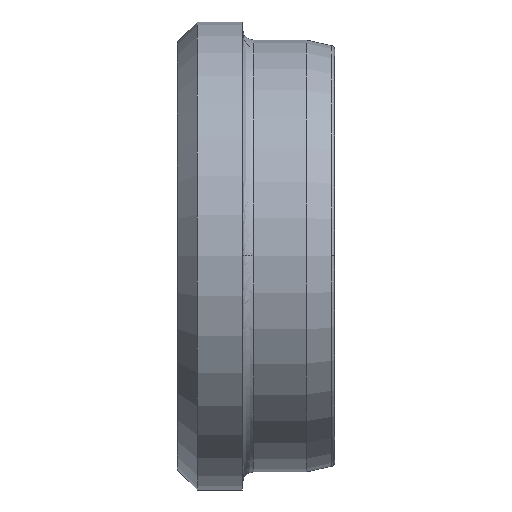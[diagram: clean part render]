
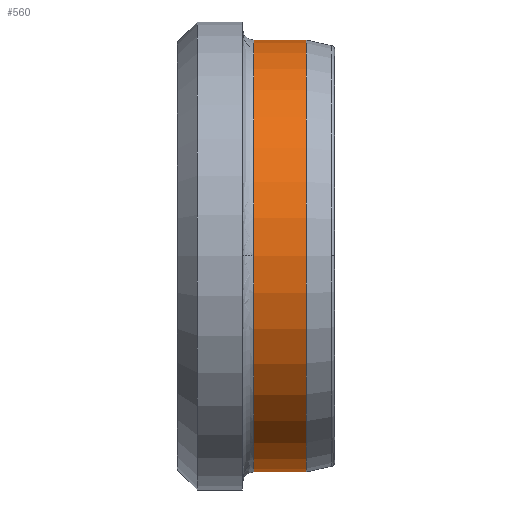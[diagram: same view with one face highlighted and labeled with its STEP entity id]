
A CAD part, top view. The second image highlights one B-rep face of the part: STEP entity #560.
In plain terms, the highlighted cylindrical face has radius 15.225 mm (diameter 30.45 mm), a partial arc.
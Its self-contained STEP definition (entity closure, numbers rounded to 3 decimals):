
#510=CARTESIAN_POINT('',(0.5,-9.633,0.0));
#511=DIRECTION('',(1.0,0.0,0.0));
#512=DIRECTION('',(0.0,1.0,0.0));
#513=AXIS2_PLACEMENT_3D('',#510,#511,#512);
#514=CYLINDRICAL_SURFACE('',#513,15.225);
#515=CARTESIAN_POINT('',(-0.95,5.592,0.0));
#516=VERTEX_POINT('',#515);
#517=CARTESIAN_POINT('',(2.75,5.592,0.0));
#518=VERTEX_POINT('',#517);
#519=CARTESIAN_POINT('',(-0.95,5.592,0.0));
#520=DIRECTION('',(1.0,0.0,0.0));
#521=VECTOR('',#520,3.7);
#522=LINE('',#519,#521);
#523=EDGE_CURVE('',#516,#518,#522,.T.);
#524=ORIENTED_EDGE('',*,*,#523,.F.);
#525=CARTESIAN_POINT('',(-0.95,-9.633,15.225));
#526=VERTEX_POINT('',#525);
#527=CARTESIAN_POINT('',(-0.95,-9.633,0.0));
#528=DIRECTION('',(-1.0,0.0,0.0));
#529=DIRECTION('',(0.0,-1.0,0.0));
#530=AXIS2_PLACEMENT_3D('',#527,#528,#529);
#531=CIRCLE('',#530,15.225);
#532=EDGE_CURVE('',#526,#516,#531,.T.);
#533=ORIENTED_EDGE('',*,*,#532,.F.);
#534=CARTESIAN_POINT('',(-0.95,-24.858,0.));
#535=VERTEX_POINT('',#534);
#536=CARTESIAN_POINT('',(-0.95,-9.633,0.0));
#537=DIRECTION('',(-1.0,0.0,0.0));
#538=DIRECTION('',(0.0,-1.0,0.0));
#539=AXIS2_PLACEMENT_3D('',#536,#537,#538);
#540=CIRCLE('',#539,15.225);
#541=EDGE_CURVE('',#535,#526,#540,.T.);
#542=ORIENTED_EDGE('',*,*,#541,.F.);
#543=CARTESIAN_POINT('',(2.75,-24.858,0.));
#544=VERTEX_POINT('',#543);
#545=CARTESIAN_POINT('',(2.75,-24.858,0.));
#546=DIRECTION('',(-1.0,0.0,0.0));
#547=VECTOR('',#546,3.7);
#548=LINE('',#545,#547);
#549=EDGE_CURVE('',#544,#535,#548,.T.);
#550=ORIENTED_EDGE('',*,*,#549,.F.);
#551=CARTESIAN_POINT('',(2.75,-9.633,0.0));
#552=DIRECTION('',(1.0,0.0,0.0));
#553=DIRECTION('',(0.0,1.0,0.0));
#554=AXIS2_PLACEMENT_3D('',#551,#552,#553);
#555=CIRCLE('',#554,15.225);
#556=EDGE_CURVE('',#518,#544,#555,.T.);
#557=ORIENTED_EDGE('',*,*,#556,.F.);
#558=EDGE_LOOP('',(#524,#533,#542,#550,#557));
#559=FACE_OUTER_BOUND('',#558,.T.);
#560=ADVANCED_FACE('',(#559),#514,.T.);
